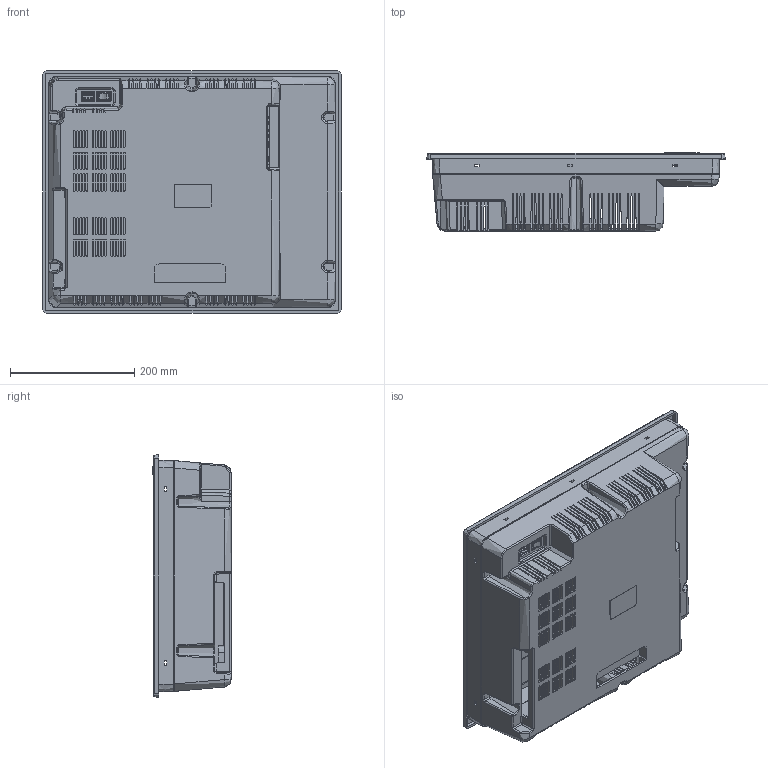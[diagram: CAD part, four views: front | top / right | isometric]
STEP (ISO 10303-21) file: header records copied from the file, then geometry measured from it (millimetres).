
FILE_DESCRIPTION (( 'STEP AP203' ), '1' );
FILE_NAME ('Assy_T19_¹èÆ÷¿ë.STEP', '2017-12-01T06:11:30', ( '' ), ( '' ), 'SwSTEP 2.0', 'SolidWorks 2017', '' );
FILE_SCHEMA (( 'CONFIG_CONTROL_DESIGN' ));
Length unit declared in the file: millimetre
Products named in the file (21): Switch_BTC02066_KSP22_DIP Digital code switch_¹èÆ÷¿ë; Power Switch_KCD1-101A(Red)_寡ん辨; AK_D_SUB_18P_4HD_RA_LFA_寡ん辨; Asssy 485_PNT15001_RS422,R485_寡ん辨_A; USB Host_寡ん辨; LED_568-0724-444F_寡ん辨; D_SUB_24P_寡ん辨; RU1-161A9WGF_寡ん辨; Connector_瞪賊睡 USB_寡ん辨; Assy_Perseus v1.2_寡ん辨; Bracket IO_NT19_寡ん辨; Bottom Case_BTC09057_19_A_寡ん辨; Connector_15EDGRC_3.5_05P_BXP15081_degson_寡ん辨; AK_HDMI_CON_19P_6H_LFA_寡ん辨; Power PCB_Connector_USL-51MVW-3P_寡ん辨; Assy_T19_寡ん辨; Front Bezel_陛屈荐沥_T19_硅器侩; Audio_寡ん辨; Assy_PC441NF_寡ん辨_A; LCD_BTC25012_LM190E0A-SLA1_T19_寡ん辨; Adhesive Bezel_19_Z_寡ん辨
Assembly tree (22 placements, depth 3):
  Assy_T19_寡ん辨
    Assy_Perseus v1.2_寡ん辨
      LED_568-0724-444F_寡ん辨
      RU1-161A9WGF_寡ん辨  x2
      Audio_寡ん辨
      D_SUB_24P_寡ん辨
      AK_D_SUB_18P_4HD_RA_LFA_寡ん辨
      AK_HDMI_CON_19P_6H_LFA_寡ん辨
    Assy_PC441NF_寡ん辨_A
      Power PCB_Connector_USL-51MVW-3P_寡ん辨
      Power Switch_KCD1-101A(Red)_寡ん辨
    LCD_BTC25012_LM190E0A-SLA1_T19_寡ん辨
    Front Bezel_陛屈荐沥_T19_硅器侩
    Bracket IO_NT19_寡ん辨
    Bottom Case_BTC09057_19_A_寡ん辨
    Asssy 485_PNT15001_RS422,R485_寡ん辨_A
      Connector_15EDGRC_3.5_05P_BXP15081_degson_寡ん辨
      Switch_BTC02066_KSP22_DIP Digital code switch_¹èÆ÷¿ë
    Connector_瞪賊睡 USB_寡ん辨
      USB Host_寡ん辨  x2
    Adhesive Bezel_19_Z_寡ん辨
Bounding box: 480 x 125.5 x 390 mm (x, y, z)
Topology: 13 solids, 669 shells, 11636 faces, 39514 edges, 27738 vertices
Faces by surface type: plane 7438, cylinder 3195, bspline 746, cone 185, torus 51, sphere 21
Full cylindrical faces by diameter (mm): 1 x4
Entity records: 425853 total; most frequent: CARTESIAN_POINT 148339, ORIENTED_EDGE 58605, DIRECTION 49943, EDGE_CURVE 33015, VERTEX_POINT 23085, VECTOR 22553, LINE 22553, AXIS2_PLACEMENT_3D 13695
